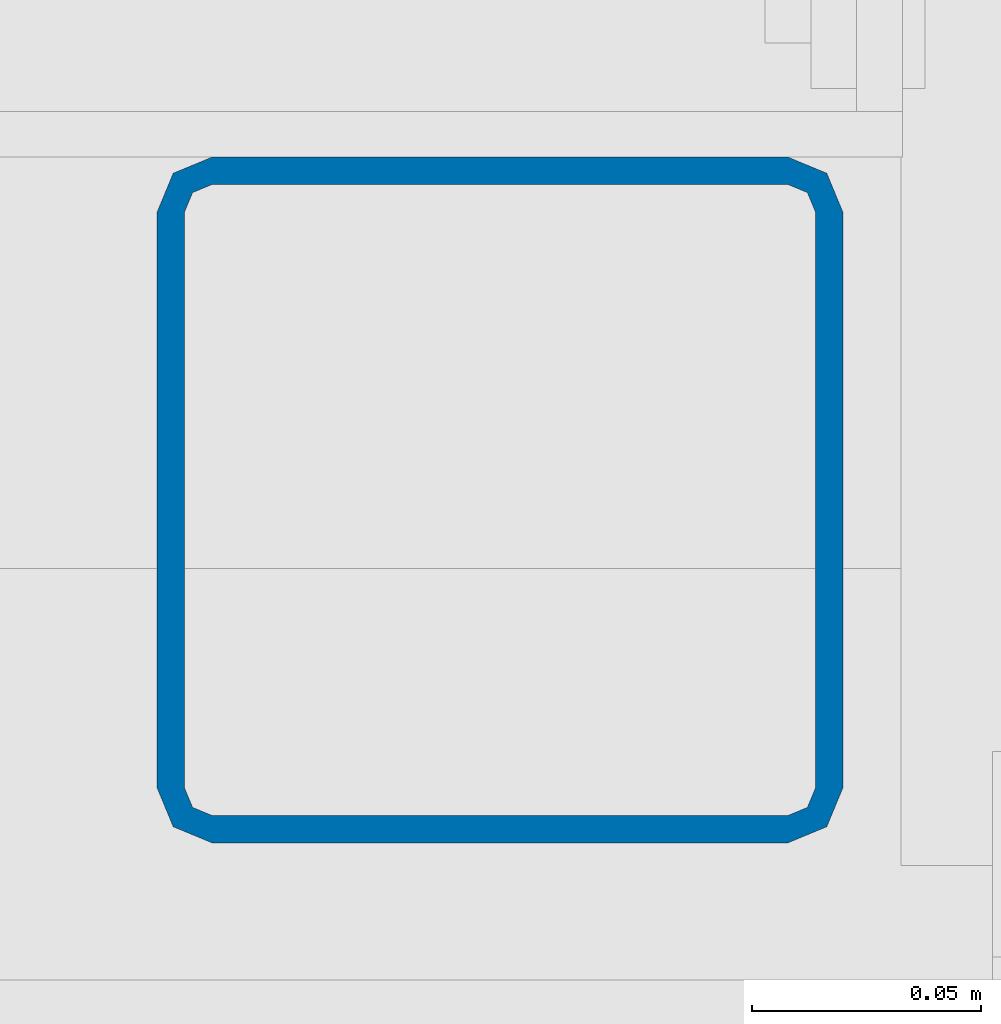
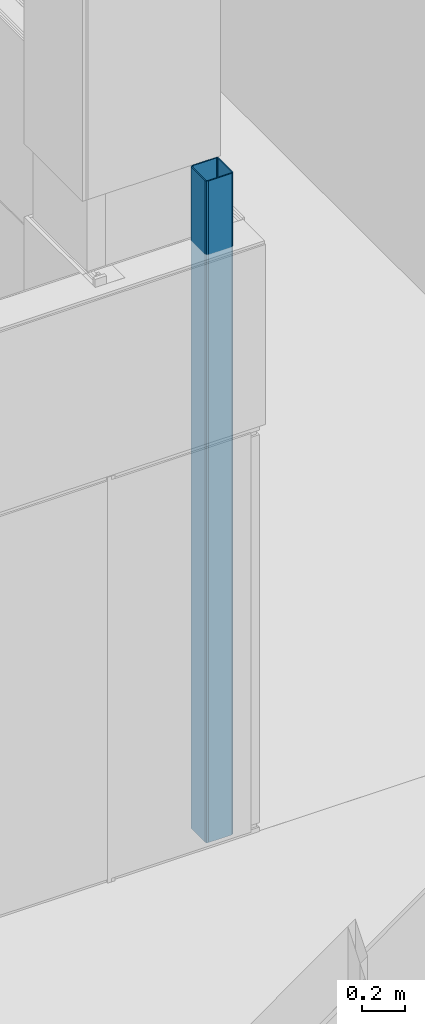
# One storey, part 33 of 139: 1 column.
"""IFC2X3 building model written with IfcOpenShell, lengths in millimetres."""

from ifc_helpers import new_model, entity, si_unit, converted_unit, derived_unit, money_unit, direction, frame, origin_with_axes, place, context, subcontext, project, spatial, faceted_brep, material, type_object, element, save


model = new_model("IFC2X3")

# Units and contexts
model_context = context("Model", 3, precision=0.01, world=origin_with_axes(), true_north=direction((0.0, 1.0)))
body_context = subcontext(model_context, "Body", "Model", "MODEL_VIEW")
ifc_project = project(units=[si_unit("LENGTHUNIT", "METRE", prefix="MILLI"), si_unit("AREAUNIT", "SQUARE_METRE"), si_unit("VOLUMEUNIT", "CUBIC_METRE"), converted_unit("PLANEANGLEUNIT", "DEGREE", entity("IfcPlaneAngleMeasure", 0.0174532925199), si_unit("PLANEANGLEUNIT", "RADIAN"), dimensions=[0, 0, 0, 0, 0, 0, 0]), money_unit("EUR"), converted_unit("TIMEUNIT", "Year", entity("IfcTimeMeasure", 31556926.0), si_unit("TIMEUNIT", "SECOND"), dimensions=[0, 0, 1, 0, 0, 0, 0]), si_unit("MASSUNIT", "GRAM", prefix="KILO"), si_unit("THERMODYNAMICTEMPERATUREUNIT", "DEGREE_CELSIUS"), si_unit("LUMINOUSINTENSITYUNIT", "LUMEN"), si_unit("ENERGYUNIT", "JOULE", prefix="MEGA"), derived_unit("THERMALCONDUCTANCEUNIT", [(si_unit("POWERUNIT", "WATT"), 1), (si_unit("LENGTHUNIT", "METRE"), -1), (si_unit("THERMODYNAMICTEMPERATUREUNIT", "KELVIN"), -1)]), derived_unit("SPECIFICHEATCAPACITYUNIT", [(si_unit("ENERGYUNIT", "JOULE"), 1), (si_unit("MASSUNIT", "GRAM", prefix="KILO"), -1), (si_unit("THERMODYNAMICTEMPERATUREUNIT", "KELVIN"), -1)]), derived_unit("MASSDENSITYUNIT", [(si_unit("MASSUNIT", "GRAM", prefix="KILO"), 1), (si_unit("VOLUMEUNIT", "CUBIC_METRE"), -1)])], contexts=[model_context])

# Site, building, storey
site_placement = place(None, origin_with_axes())
site = spatial("IfcSite", under=ifc_project, at=site_placement, Name="Kolde pst 67a", CompositionType="ELEMENT")
building_placement = place(site_placement, origin_with_axes())
building = spatial("IfcBuilding", under=site, at=building_placement, Name="Riigigümnaasium", CompositionType="ELEMENT")
storey_placement = place(building_placement, frame((0.0, 0.0, 4600.0), z_axis=(0.0, 0.0, 1.0), x_axis=(1.0, 0.0, 0.0)))
storey = spatial("IfcBuildingStorey", under=building, at=storey_placement, Name="2. korrus", CompositionType="ELEMENT", Elevation=4600.0)

# Column
ifc_material = material(Name="IFC Building Material")
column_type = type_object("IfcColumnType", Name="SHS150x150x6 150 x 150", PredefinedType="COLUMN")
column_placement = place(storey_placement, frame((73561.99953, 10809.961947, 0.0), z_axis=(0.0, 0.0, 1.0), x_axis=(1.0, 0.0, 0.0)))
element("IfcColumn", 1, at=column_placement, inside=storey, type_object=column_type, material=ifc_material, Name="POST", ObjectType="COLUMN", context=body_context, shape_type="Brep", body=[
    faceted_brep([(63.0, -75.0, 3750.0), (-63.0, -75.0, 3750.0), (-63.0, -75.0, 0.0), (63.0, -75.0, 0.0), (-75.0, -63.0, 3750.0), (-71.4852813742, -71.4852813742, 3750.0), (71.4852813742, -71.4852813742, 3750.0), (75.0, -63.0, 3750.0), (75.0, 63.0, 3750.0), (71.4852813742, 71.4852813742, 3750.0), (63.0, 75.0, 3750.0), (-63.0, 75.0, 3750.0), (-71.4852813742, 71.4852813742, 3750.0), (-75.0, 63.0, 3750.0), (67.2426406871, -67.2426406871, 3750.0), (63.0, -69.0, 3750.0), (-63.0, -69.0, 3750.0), (-67.2426406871, -67.2426406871, 3750.0), (-69.0, -63.0, 3750.0), (-69.0, 63.0, 3750.0), (-67.2426406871, 67.2426406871, 3750.0), (-63.0, 69.0, 3750.0), (63.0, 69.0, 3750.0), (67.2426406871, 67.2426406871, 3750.0), (69.0, 63.0, 3750.0), (69.0, -63.0, 3750.0), (-71.4852813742, -71.4852813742, 0.0), (71.4852813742, -71.4852813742, 0.0), (-75.0, -63.0, 0.0), (-75.0, 63.0, 0.0), (-71.4852813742, 71.4852813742, 0.0), (-63.0, 75.0, 0.0), (63.0, 75.0, 0.0), (71.4852813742, 71.4852813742, 0.0), (75.0, 63.0, 0.0), (75.0, -63.0, 0.0), (-69.0, -63.0, 0.0), (-67.2426406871, -67.2426406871, 0.0), (-63.0, -69.0, 0.0), (63.0, -69.0, 0.0), (67.2426406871, -67.2426406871, 0.0), (69.0, -63.0, 0.0), (69.0, 63.0, 0.0), (67.2426406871, 67.2426406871, 0.0), (63.0, 69.0, 0.0), (-63.0, 69.0, 0.0), (-67.2426406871, 67.2426406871, 0.0), (-69.0, 63.0, 0.0)], [[[0, 1, 2, 3]], [[4, 5, 1, 0, 6, 7, 8, 9, 10, 11, 12, 13], [14, 15, 16, 17, 18, 19, 20, 21, 22, 23, 24, 25]], [[1, 5, 26, 2]], [[27, 3, 2, 26, 28, 29, 30, 31, 32, 33, 34, 35], [36, 37, 38, 39, 40, 41, 42, 43, 44, 45, 46, 47]], [[6, 0, 3, 27]], [[5, 4, 28, 26]], [[7, 6, 27, 35]], [[8, 7, 35, 34]], [[9, 8, 34, 33]], [[10, 9, 33, 32]], [[11, 10, 32, 31]], [[12, 11, 31, 30]], [[13, 12, 30, 29]], [[4, 13, 29, 28]], [[15, 14, 40, 39]], [[16, 15, 39, 38]], [[17, 16, 38, 37]], [[18, 17, 37, 36]], [[19, 18, 36, 47]], [[20, 19, 47, 46]], [[21, 20, 46, 45]], [[22, 21, 45, 44]], [[23, 22, 44, 43]], [[24, 23, 43, 42]], [[25, 24, 42, 41]], [[14, 25, 41, 40]]]),
])

save(model, "model.ifc")
